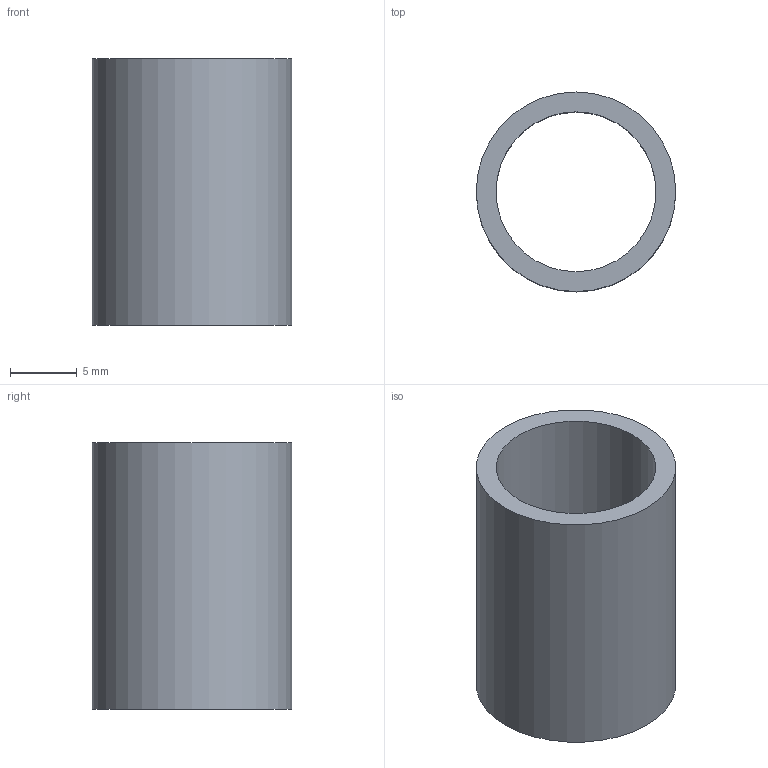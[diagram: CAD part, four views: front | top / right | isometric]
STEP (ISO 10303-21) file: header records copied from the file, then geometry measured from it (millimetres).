
FILE_DESCRIPTION(/* description */ ('BEARING B'),/* implementation_level */ '2;1');
FILE_NAME(/* name */ 'C:\Users\Apardo\Documents\Proyectos\Dietrich\Proyecto 1\PLATE ROLLING MACHINE\STEP\1.13 bearingB.stp',/* time_stamp */ '2020-11-03T20:43:53-04:00',/* author */ ('Apardo'),/* organization */ ('17'),/* preprocessor_version */ 'ST-DEVELOPER v18',/* originating_system */ 'Autodesk Inventor 2020',/* authorisation */ '');
FILE_SCHEMA (('AUTOMOTIVE_DESIGN { 1 0 10303 214 3 1 1 }'));
Length unit declared in the file: millimetre
Products named in the file (1): bearingB
Bounding box: 15 x 15 x 20 mm (x, y, z)
Volume: 1264.8 mm3; surface area: 1824.2 mm2
Topology: 1 solids, 1 shells, 4 faces, 8 edges, 6 vertices
Faces by surface type: plane 2, cylinder 2
Full cylindrical faces by diameter (mm): 12.02 x1, 15 x1
Entity records: 159 total; most frequent: DIRECTION 24, CARTESIAN_POINT 19, ORIENTED_EDGE 16, AXIS2_PLACEMENT_3D 11, EDGE_CURVE 8, EDGE_LOOP 6, CIRCLE 6, VERTEX_POINT 6
